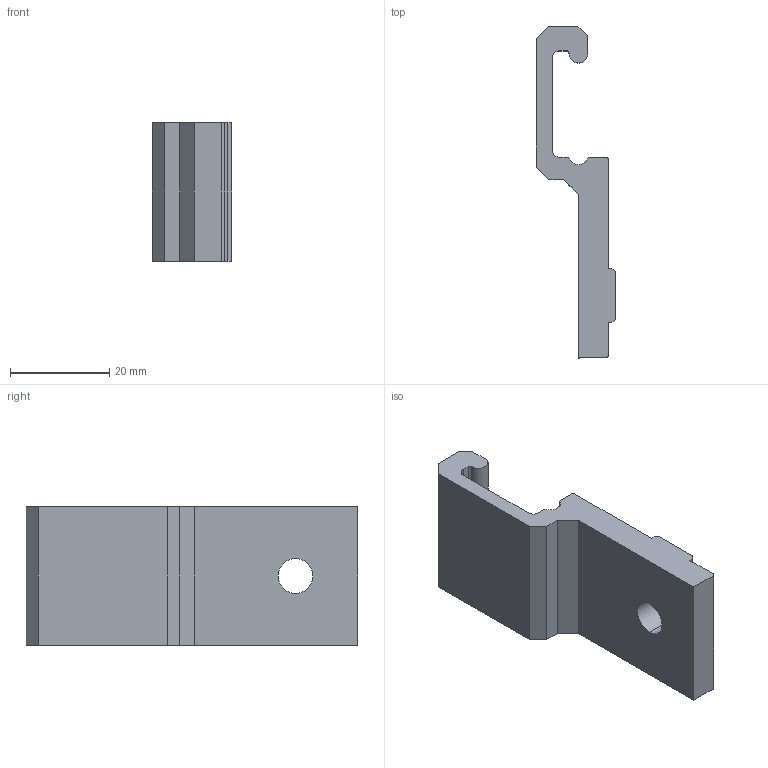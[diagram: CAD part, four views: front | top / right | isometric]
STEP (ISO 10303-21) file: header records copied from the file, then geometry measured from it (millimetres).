
FILE_DESCRIPTION (( 'STEP AP214' ), '1' );
FILE_NAME ('FGRB 11x30.step', '2017-04-05T07:37:27', ( '' ), ( '' ), 'SwSTEP 2.0', 'SolidWorks 2015', '' );
FILE_SCHEMA (( 'AUTOMOTIVE_DESIGN' ));
Length unit declared in the file: millimetre
Products named in the file (1): FGRB 11x30
Bounding box: 16 x 67 x 28 mm (x, y, z)
Volume: 11424 mm3; surface area: 5862.4 mm2
Topology: 1 solids, 1 shells, 33 faces, 93 edges, 62 vertices
Faces by surface type: plane 23, cylinder 10
Entity records: 1105 total; most frequent: CARTESIAN_POINT 189, ORIENTED_EDGE 186, DIRECTION 181, EDGE_CURVE 93, LINE 73, VECTOR 73, VERTEX_POINT 62, AXIS2_PLACEMENT_3D 54
